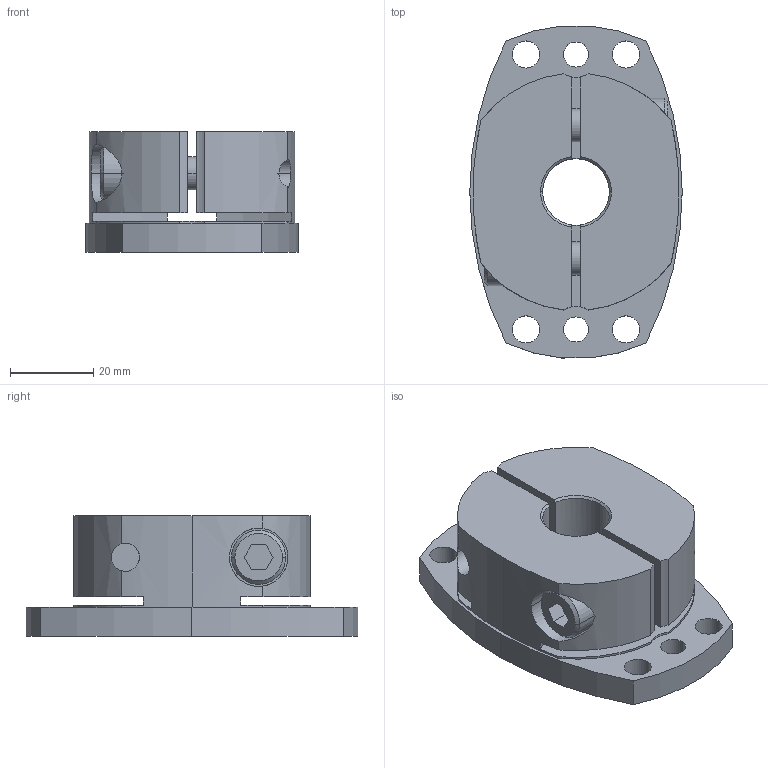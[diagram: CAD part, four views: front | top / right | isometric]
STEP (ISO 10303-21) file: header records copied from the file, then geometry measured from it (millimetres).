
FILE_DESCRIPTION((''),'2;1');
FILE_NAME('SHDB-80B-16.stp','2026-01-28T08:22:57',(''),(''),'AutoCAD STEP 2000i','AutoCAD 2000i',', , ');
FILE_SCHEMA(('CONFIG_CONTROL_DESIGN'));
Length unit declared in the file: millimetre
Products named in the file (2): SHDB-80B-12; 忣兜1
Assembly tree (1 placements, depth 2):
  SHDB-80B-12
    忣兜1
Bounding box: 51 x 79.7 x 29 mm (x, y, z)
Volume: 63244.6 mm3; surface area: 19999.5 mm2
Topology: 1 solids, 1 shells, 102 faces, 280 edges, 184 vertices
Faces by surface type: cylinder 58, plane 34, cone 10
Entity records: 3707 total; most frequent: CARTESIAN_POINT 880, DIRECTION 602, ORIENTED_EDGE 560, EDGE_CURVE 280, AXIS2_PLACEMENT_3D 238, VERTEX_POINT 184, CIRCLE 134, VECTOR 126
